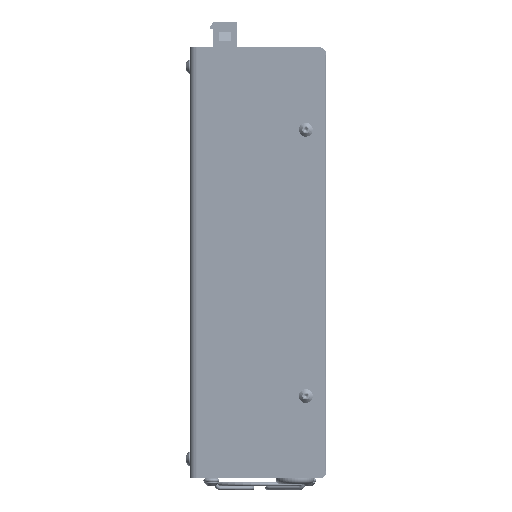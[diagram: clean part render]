
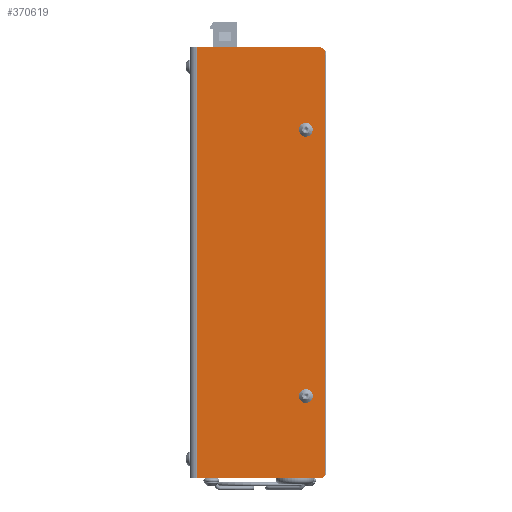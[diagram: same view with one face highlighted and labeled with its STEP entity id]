
A CAD part, left-side view. The second image highlights one B-rep face of the part: STEP entity #370619.
In plain terms, the highlighted planar face has unit normal (-1, 0, 0) as drawn and (1, 0, 0) by its records, which use the part's own axes.
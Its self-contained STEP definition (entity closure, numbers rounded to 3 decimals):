
#11246 = EDGE_LOOP ( 'NONE', ( #90301, #107604 ) ) ;
#15781 = CARTESIAN_POINT ( 'NONE',  ( 80.5, 0., -176. ) ) ;
#18811 = DIRECTION ( 'NONE',  ( 1., 0., 0. ) ) ;
#23499 = CARTESIAN_POINT ( 'NONE',  ( 80.5, 56., -178. ) ) ;
#25031 = ORIENTED_EDGE ( 'NONE', *, *, #320595, .F. ) ;
#29790 = VERTEX_POINT ( 'NONE', #186811 ) ;
#30825 = DIRECTION ( 'NONE',  ( 1., 0., 0. ) ) ;
#30843 = VECTOR ( 'NONE', #339712, 1000. ) ;
#31781 = VERTEX_POINT ( 'NONE', #268034 ) ;
#32421 = CARTESIAN_POINT ( 'NONE',  ( 80.5, 8., -34. ) ) ;
#35427 = LINE ( 'NONE', #438913, #329070 ) ;
#36270 = ORIENTED_EDGE ( 'NONE', *, *, #115621, .T. ) ;
#41946 = CARTESIAN_POINT ( 'NONE',  ( 80.5, 8., -32.25 ) ) ;
#48684 = CARTESIAN_POINT ( 'NONE',  ( 80.5, 53., -178. ) ) ;
#51435 = AXIS2_PLACEMENT_3D ( 'NONE', #338021, #30825, #398575 ) ;
#61499 = CIRCLE ( 'NONE', #118731, 2. ) ;
#66029 = ORIENTED_EDGE ( 'NONE', *, *, #281271, .F. ) ;
#79778 = FACE_BOUND ( 'NONE', #11246, .T. ) ;
#81178 = CARTESIAN_POINT ( 'NONE',  ( 80.5, 8., -34. ) ) ;
#90301 = ORIENTED_EDGE ( 'NONE', *, *, #443617, .F. ) ;
#95867 = EDGE_CURVE ( 'NONE', #322157, #29790, #254772, .T. ) ;
#97659 = VERTEX_POINT ( 'NONE', #345512 ) ;
#97676 = CARTESIAN_POINT ( 'NONE',  ( 80.5, 56., 0. ) ) ;
#98752 = VERTEX_POINT ( 'NONE', #125525 ) ;
#103989 = AXIS2_PLACEMENT_3D ( 'NONE', #361886, #18811, #330524 ) ;
#106484 = EDGE_LOOP ( 'NONE', ( #25031, #66029 ) ) ;
#107312 = CARTESIAN_POINT ( 'NONE',  ( 80.5, 0., -178. ) ) ;
#107604 = ORIENTED_EDGE ( 'NONE', *, *, #371193, .F. ) ;
#114734 = EDGE_CURVE ( 'NONE', #193524, #97659, #212510, .T. ) ;
#115621 = EDGE_CURVE ( 'NONE', #311162, #97659, #61499, .T. ) ;
#118731 = AXIS2_PLACEMENT_3D ( 'NONE', #210410, #380806, #176919 ) ;
#122809 = ORIENTED_EDGE ( 'NONE', *, *, #356767, .F. ) ;
#125525 = CARTESIAN_POINT ( 'NONE',  ( 80.5, 2., -178. ) ) ;
#129018 = VERTEX_POINT ( 'NONE', #219657 ) ;
#130279 = VERTEX_POINT ( 'NONE', #248927 ) ;
#135810 = CARTESIAN_POINT ( 'NONE',  ( 80.5, 8., -144. ) ) ;
#142135 = DIRECTION ( 'NONE',  ( 1., 0., 0. ) ) ;
#164854 = DIRECTION ( 'NONE',  ( 0., -1., 0. ) ) ;
#176919 = DIRECTION ( 'NONE',  ( 0., -1., 0. ) ) ;
#182546 = VECTOR ( 'NONE', #349373, 1000. ) ;
#186522 = DIRECTION ( 'NONE',  ( 0., 0., 1. ) ) ;
#186811 = CARTESIAN_POINT ( 'NONE',  ( 80.5, 53., 0. ) ) ;
#187437 = CIRCLE ( 'NONE', #51435, 2. ) ;
#188081 = CIRCLE ( 'NONE', #238248, 1.75 ) ;
#193524 = VERTEX_POINT ( 'NONE', #15781 ) ;
#201398 = DIRECTION ( 'NONE',  ( 0., -1., 0. ) ) ;
#210410 = CARTESIAN_POINT ( 'NONE',  ( 80.5, 2., -2. ) ) ;
#212510 = LINE ( 'NONE', #107312, #182546 ) ;
#216515 = FACE_OUTER_BOUND ( 'NONE', #264504, .T. ) ;
#217487 = AXIS2_PLACEMENT_3D ( 'NONE', #23499, #263299, #164854 ) ;
#219657 = CARTESIAN_POINT ( 'NONE',  ( 80.5, 8., -35.75 ) ) ;
#224803 = ORIENTED_EDGE ( 'NONE', *, *, #418161, .T. ) ;
#236354 = DIRECTION ( 'NONE',  ( 0., 0., 1. ) ) ;
#238248 = AXIS2_PLACEMENT_3D ( 'NONE', #135810, #409277, #337673 ) ;
#240837 = LINE ( 'NONE', #97676, #30843 ) ;
#248927 = CARTESIAN_POINT ( 'NONE',  ( 80.5, 8., -145.75 ) ) ;
#254772 = LINE ( 'NONE', #48684, #373342 ) ;
#263299 = DIRECTION ( 'NONE',  ( -1., 0., 0. ) ) ;
#264504 = EDGE_LOOP ( 'NONE', ( #375555, #36270, #420866, #224803, #122809, #298133 ) ) ;
#267741 = PLANE ( 'NONE',  #217487 ) ;
#268034 = CARTESIAN_POINT ( 'NONE',  ( 80.5, 8., -142.25 ) ) ;
#281271 = EDGE_CURVE ( 'NONE', #130279, #31781, #188081, .T. ) ;
#293492 = EDGE_CURVE ( 'NONE', #29790, #311162, #240837, .T. ) ;
#298133 = ORIENTED_EDGE ( 'NONE', *, *, #95867, .T. ) ;
#311162 = VERTEX_POINT ( 'NONE', #421329 ) ;
#320595 = EDGE_CURVE ( 'NONE', #31781, #130279, #419063, .T. ) ;
#322157 = VERTEX_POINT ( 'NONE', #322840 ) ;
#322840 = CARTESIAN_POINT ( 'NONE',  ( 80.5, 53., -178. ) ) ;
#329070 = VECTOR ( 'NONE', #201398, 1000. ) ;
#330524 = DIRECTION ( 'NONE',  ( 0., 0., 1. ) ) ;
#332640 = VERTEX_POINT ( 'NONE', #41946 ) ;
#337673 = DIRECTION ( 'NONE',  ( 0., 0., 1. ) ) ;
#338021 = CARTESIAN_POINT ( 'NONE',  ( 80.5, 2., -176. ) ) ;
#338333 = AXIS2_PLACEMENT_3D ( 'NONE', #81178, #386035, #186522 ) ;
#339712 = DIRECTION ( 'NONE',  ( 0., -1., 0. ) ) ;
#345512 = CARTESIAN_POINT ( 'NONE',  ( 80.5, 0., -2. ) ) ;
#349373 = DIRECTION ( 'NONE',  ( 0., 0., 1. ) ) ;
#356767 = EDGE_CURVE ( 'NONE', #322157, #98752, #35427, .T. ) ;
#361886 = CARTESIAN_POINT ( 'NONE',  ( 80.5, 8., -144. ) ) ;
#370619 = ADVANCED_FACE ( 'NONE', ( #386881, #79778, #216515 ), #267741, .F. ) ;
#371193 = EDGE_CURVE ( 'NONE', #129018, #332640, #375626, .T. ) ;
#373342 = VECTOR ( 'NONE', #393823, 1000. ) ;
#375555 = ORIENTED_EDGE ( 'NONE', *, *, #293492, .T. ) ;
#375626 = CIRCLE ( 'NONE', #432846, 1.75 ) ;
#380806 = DIRECTION ( 'NONE',  ( 1., 0., 0. ) ) ;
#386035 = DIRECTION ( 'NONE',  ( 1., 0., 0. ) ) ;
#386881 = FACE_BOUND ( 'NONE', #106484, .T. ) ;
#393823 = DIRECTION ( 'NONE',  ( 0., 0., 1. ) ) ;
#398575 = DIRECTION ( 'NONE',  ( 0., -1., 0. ) ) ;
#409277 = DIRECTION ( 'NONE',  ( 1., 0., 0. ) ) ;
#418161 = EDGE_CURVE ( 'NONE', #193524, #98752, #187437, .T. ) ;
#419063 = CIRCLE ( 'NONE', #103989, 1.75 ) ;
#420866 = ORIENTED_EDGE ( 'NONE', *, *, #114734, .F. ) ;
#421329 = CARTESIAN_POINT ( 'NONE',  ( 80.5, 2., 0. ) ) ;
#431303 = CIRCLE ( 'NONE', #338333, 1.75 ) ;
#432846 = AXIS2_PLACEMENT_3D ( 'NONE', #32421, #142135, #236354 ) ;
#438913 = CARTESIAN_POINT ( 'NONE',  ( 80.5, 56., -178. ) ) ;
#443617 = EDGE_CURVE ( 'NONE', #332640, #129018, #431303, .T. ) ;
